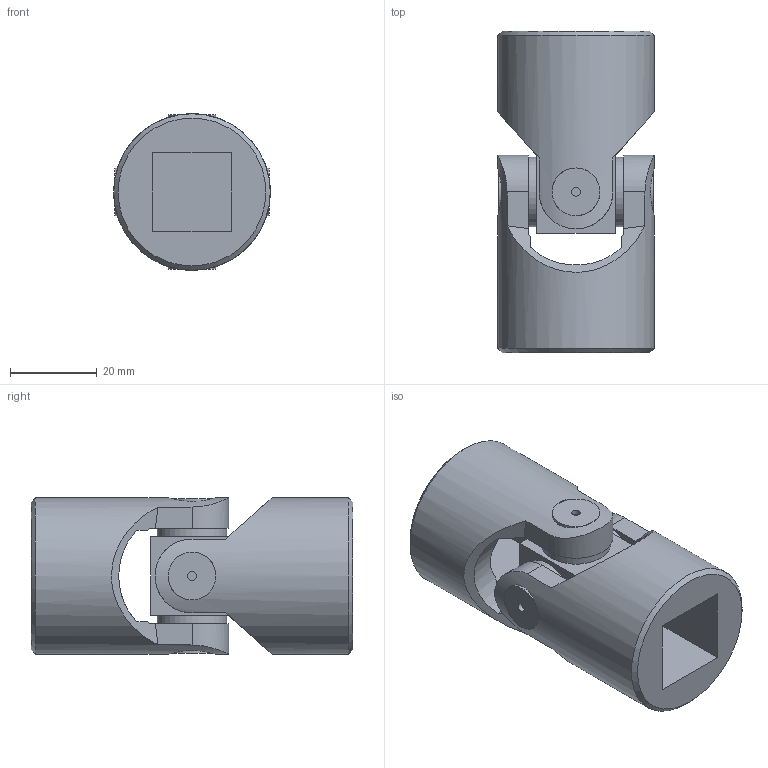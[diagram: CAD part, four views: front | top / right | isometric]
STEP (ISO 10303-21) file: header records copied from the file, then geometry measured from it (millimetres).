
FILE_DESCRIPTION(/* description */ ('EXTENSIBLE TRANSIMISSIONS Series G DIN 808 -2-'),/* implementation_level */ '2;1');
FILE_NAME(/* name */ '\\SRV2016\societa\Stefano\Disegni 3D\Dis. Clienti\0000Catalogo 3D\01Singoli G-GB\SG0S182Q.stp',/* time_stamp */ '2021-11-08T16:58:20+01:00',/* author */ ('acquisti'),/* organization */ ('MARIOFERRI'),/* preprocessor_version */ 'ST-DEVELOPER v15.6',/* originating_system */ 'Autodesk Inventor 2015',/* authorisation */ '');
FILE_SCHEMA (('AUTOMOTIVE_DESIGN { 1 0 10303 214 3 1 1 }'));
Length unit declared in the file: millimetre
Products named in the file (3): 2G SFE; 2G MOQ; Assieme3
Assembly tree (3 placements, depth 2):
  Assieme3
    2G SFE
    2G MOQ  x2
Bounding box: 36 x 74 x 36 mm (x, y, z)
Volume: 47441.4 mm3; surface area: 16885.6 mm2
Topology: 3 solids, 3 shells, 102 faces, 252 edges, 166 vertices
Faces by surface type: plane 44, cylinder 38, cone 18, torus 2
Full cylindrical faces by diameter (mm): 2 x4, 16 x4, 36 x2
Entity records: 1909 total; most frequent: CARTESIAN_POINT 587, ORIENTED_EDGE 258, DIRECTION 252, EDGE_CURVE 129, AXIS2_PLACEMENT_3D 106, VERTEX_POINT 91, EDGE_LOOP 76, FACE_OUTER_BOUND 58
